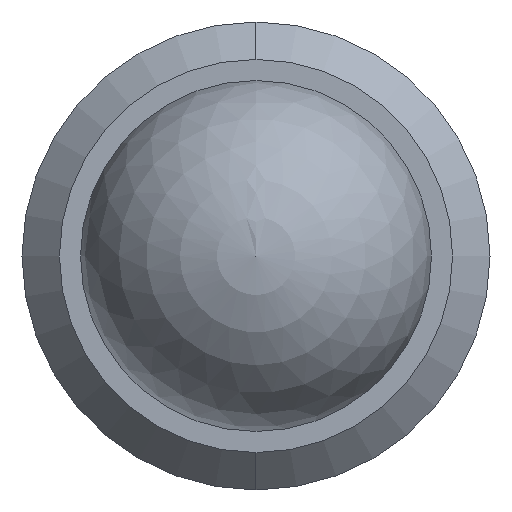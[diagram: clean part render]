
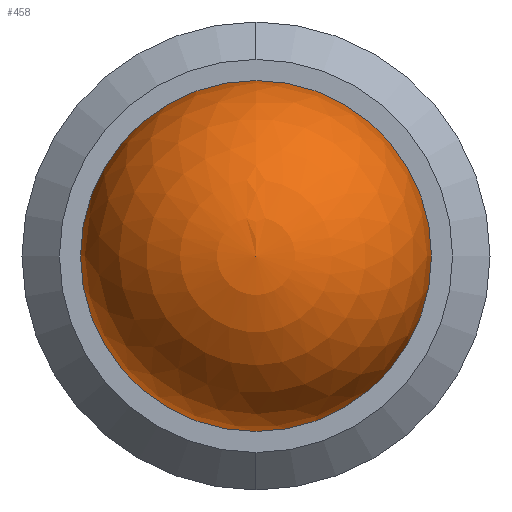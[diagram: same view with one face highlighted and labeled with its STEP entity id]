
A CAD part, left-side view. The second image highlights one B-rep face of the part: STEP entity #458.
In plain terms, the highlighted spherical face has radius 2.381 mm.
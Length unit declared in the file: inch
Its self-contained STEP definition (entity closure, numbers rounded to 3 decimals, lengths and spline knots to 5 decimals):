
#41 = EDGE_CURVE ( 'NONE', #105, #295, #304, .T. ) ;
#72 = EDGE_CURVE ( 'NONE', #105, #295, #298, .T. ) ;
#105 = VERTEX_POINT ( 'NONE', #574 ) ;
#140 = FACE_OUTER_BOUND ( 'NONE', #398, .T. ) ;
#173 = CARTESIAN_POINT ( 'NONE',  ( 0., 0., 0. ) ) ;
#182 = DIRECTION ( 'NONE',  ( -1., 0., 0. ) ) ;
#214 = AXIS2_PLACEMENT_3D ( 'NONE', #389, #629, #438 ) ;
#295 = VERTEX_POINT ( 'NONE', #485 ) ;
#298 = CIRCLE ( 'NONE', #477, 0.09375 ) ;
#304 = CIRCLE ( 'NONE', #529, 0.09375 ) ;
#309 = CARTESIAN_POINT ( 'NONE',  ( 0., 0., 0. ) ) ;
#311 = DIRECTION ( 'NONE',  ( 0., 0., 1. ) ) ;
#325 = SPHERICAL_SURFACE ( 'NONE', #214, 0.09375 ) ;
#389 = CARTESIAN_POINT ( 'NONE',  ( 0., 0., 0. ) ) ;
#398 = EDGE_LOOP ( 'NONE', ( #530, #439 ) ) ;
#402 = DIRECTION ( 'NONE',  ( 0., 0., -1. ) ) ;
#410 = DIRECTION ( 'NONE',  ( 1., 0., 0. ) ) ;
#438 = DIRECTION ( 'NONE',  ( 0., 0., 1. ) ) ;
#439 = ORIENTED_EDGE ( 'NONE', *, *, #72, .T. ) ;
#458 = ADVANCED_FACE ( 'NONE', ( #140 ), #325, .T. ) ;
#477 = AXIS2_PLACEMENT_3D ( 'NONE', #309, #182, #311 ) ;
#485 = CARTESIAN_POINT ( 'NONE',  ( 0., -0.09375, 0. ) ) ;
#529 = AXIS2_PLACEMENT_3D ( 'NONE', #173, #410, #402 ) ;
#530 = ORIENTED_EDGE ( 'NONE', *, *, #41, .F. ) ;
#574 = CARTESIAN_POINT ( 'NONE',  ( 0., 0.09375, 0. ) ) ;
#629 = DIRECTION ( 'NONE',  ( -1., 0., 0. ) ) ;
